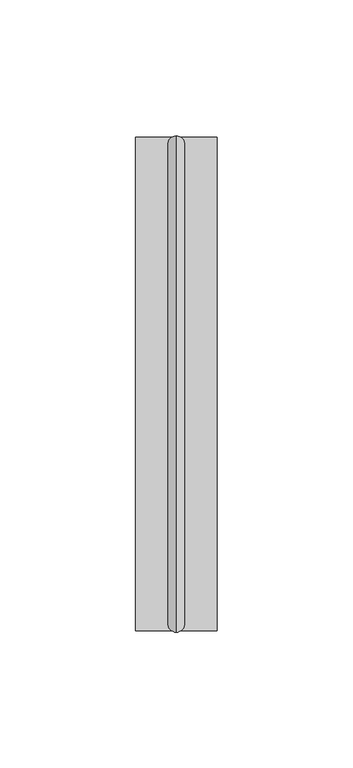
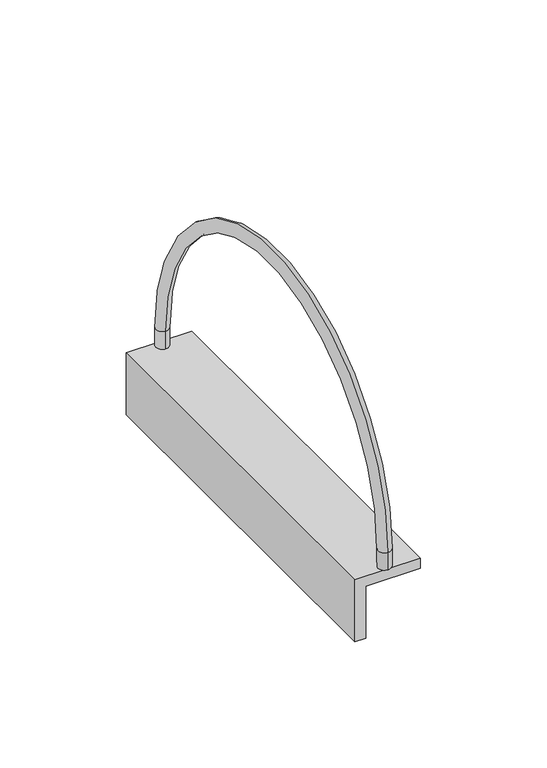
"""IFC4 building model written with IfcOpenShell, lengths in millimetres: proxy geometry, SUJECCIÓN DE TUBERÍA : SUJECCIÓN DE TUBERÍA D-50."""

from ifc_helpers import new_model, si_unit, point, frame, origin, place, context, project, spatial, polyline, circle_curve, ellipse_curve, trimmed, outline, extrude, source, transform, mapped, element, save
from ifc_brep_helpers import plane_surface, cylinder_surface, revolved_surface, advanced_brep


def generic_models_2fe8da2b(model_context):
    return source(origin(), model_context, "Body", "SolidModel", [
        advanced_brep(
        [(15.0, -72.7422547, 0.0), (15.0, -78.7422547, 0.0), (15.0, -72.7422547, 8.4677949), (15.0, -78.7422547, 8.4677949), (15.0, -249.5, 8.4677949), (15.0, -255.5, 8.4677949), (15.0, -255.5, 0.0), (15.0, -249.5, 0.0)],
        [
            (0, 1, circle_curve(frame((15.0, -75.7422547, 0.0), z_axis=(0.0, 0.0, -1.0), x_axis=(0.0, -1.0, 0.0)), 3.0)),
            (1, 0, circle_curve(frame((15.0, -75.7422547, 0.0), z_axis=(0.0, 0.0, -1.0), x_axis=(0.0, -1.0, 0.0)), 3.0)),
            (0, 2),
            (2, 3, circle_curve(frame((15.0, -75.7422547, 8.4677949), z_axis=(0.0, 0.0, -1.0), x_axis=(0.0, -1.0, 0.0)), 3.0)),
            (3, 1),
            (3, 2, circle_curve(frame((15.0, -75.7422547, 8.4677949), z_axis=(0.0, 0.0, -1.0), x_axis=(0.0, -1.0, 0.0)), 3.0)),
            (4, 3, circle_curve(frame((15.0, -164.1211274, 8.4677949), z_axis=(-1.0, 0.0, 0.0), x_axis=(0.0, 1.0, 0.0)), 85.3788726)),
            (2, 5, circle_curve(frame((15.0, -164.1211274, 8.4677949), z_axis=(1.0, 0.0, 0.0), x_axis=(0.0, 1.0, 0.0)), 91.3788726)),
            (5, 4, circle_curve(frame((15.0, -252.5, 8.4677949), z_axis=(0.0, 0.0, 1.0), x_axis=(0.0, 1.0, 0.0)), 3.0)),
            (4, 5, circle_curve(frame((15.0, -252.5, 8.4677949), z_axis=(0.0, 0.0, 1.0), x_axis=(0.0, 1.0, 0.0)), 3.0)),
            (6, 7, circle_curve(frame((15.0, -252.5, 0.0), z_axis=(0.0, 0.0, -1.0), x_axis=(0.0, 1.0, 0.0)), 3.0)),
            (7, 6, circle_curve(frame((15.0, -252.5, 0.0), z_axis=(0.0, 0.0, -1.0), x_axis=(0.0, 1.0, 0.0)), 3.0)),
            (5, 6),
            (7, 4),
        ],
        [
            plane_surface(frame((0.0, -75.7422547, 0.0), z_axis=(0.0, 0.0, -1.0), x_axis=(1.0, 0.0, 0.0))),
            cylinder_surface(frame((15.0, -75.7422547, 0.0), z_axis=(0.0, 0.0, -1.0), x_axis=(0.0, -1.0, 0.0)), 3.0),
            revolved_surface(trimmed(ellipse_curve(frame((15.0, -75.7422547, 8.4677949), z_axis=(0.0, 0.0, -1.0), x_axis=(0.0, -1.0, 0.0)), 3.0, 3.0), [point((15.0, -72.7422547, 8.4677949))], [point((15.0, -78.7422547, 8.4677949))], True, "CARTESIAN"), (0.0, -164.1211274, 8.4677949), (1.0, 0.0, 0.0)),
            revolved_surface(trimmed(ellipse_curve(frame((15.0, -75.7422547, 8.4677949), z_axis=(0.0, 0.0, -1.0), x_axis=(0.0, -1.0, 0.0)), 3.0, 3.0), [point((15.0, -78.7422547, 8.4677949))], [point((15.0, -72.7422547, 8.4677949))], True, "CARTESIAN"), (0.0, -164.1211274, 8.4677949), (1.0, 0.0, 0.0)),
            plane_surface(frame((0.0, -252.5, 0.0), z_axis=(0.0, 0.0, -1.0), x_axis=(1.0, 0.0, 0.0))),
            cylinder_surface(frame((15.0, -252.5, 8.4677949), z_axis=(0.0, 0.0, 1.0), x_axis=(0.0, 1.0, 0.0)), 3.0),
        ],
        [
            (0, [[1, 2]]),
            (1, [[-1, 3, 4, 5]]),
            (1, [[-2, -5, 6, -3]]),
            (2, [[7, -4, 8, 9]]),
            (3, [[-8, -6, -7, 10]]),
            (4, [[11, 12]]),
            (5, [[-9, 13, -12, 14]]),
            (5, [[-10, -14, -11, -13]]),
        ],
    ),
        extrude(outline(polyline([(0.0, 0.0), (-30.0, 0.0), (-30.0, 5.0), (-5.0, 5.0), (-5.0, 30.0), (0.0, 30.0), (0.0, 0.0)])), frame((0.0, -255.0, 0.0), z_axis=(0.0, 1.0, 0.0), x_axis=(0.0, 0.0, 1.0)), (0.0, 0.0, 1.0), 181.7577453),
    ])


if __name__ == "__main__":
    model = new_model("IFC4")
    model_context = context("Model", 3, world=origin())
    ifc_project = project(units=[si_unit("LENGTHUNIT", "METRE", prefix="MILLI")], contexts=[model_context])
    site = spatial("IfcSite", under=ifc_project)
    building = spatial("IfcBuilding", under=site)
    placement = place(None, origin())
    generic_models_shape = generic_models_2fe8da2b(model_context)
    element("IfcBuildingElementProxy", 1, Name="SUJECCIÓN DE TUBERÍA : SUJECCIÓN DE TUBERÍA D-50", ObjectType="SUJECCIÓN DE TUBERÍA : SUJECCIÓN DE TUBERÍA D-50", at=placement, inside=building, context=model_context, shape_type="MappedRepresentation", body=[
        mapped(generic_models_shape, transform((0.0, 0.0, 0.0), x_axis=(1.0, 0.0, 0.0), y_axis=(0.0, 1.0, 0.0), z_axis=(0.0, 0.0, 1.0))),
    ])
    save(model, "model.ifc")
